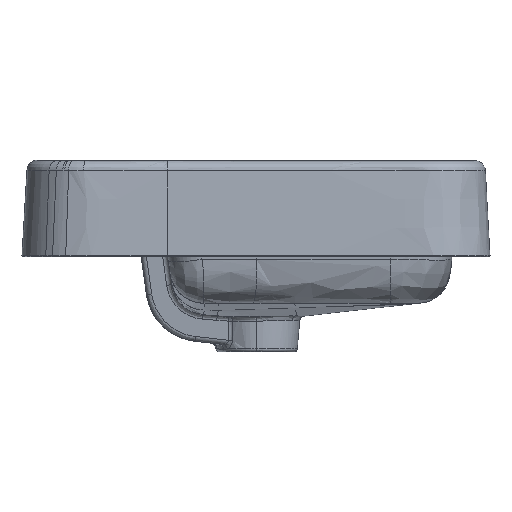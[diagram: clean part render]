
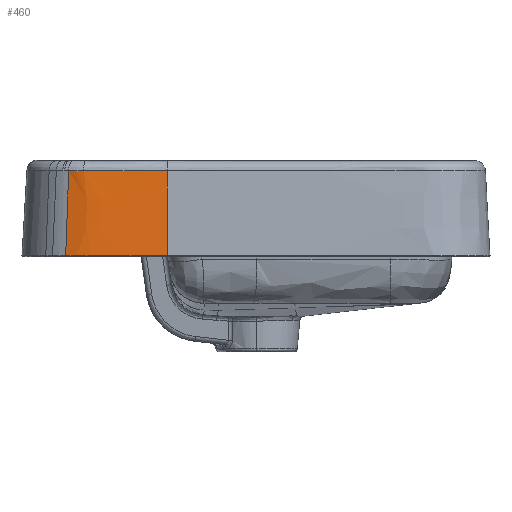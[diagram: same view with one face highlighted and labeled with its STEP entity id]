
A CAD part, left-side view. The second image highlights one B-rep face of the part: STEP entity #460.
In plain terms, the highlighted free-form (B-spline) face has degree [3, 3] with [4, 12] control points.
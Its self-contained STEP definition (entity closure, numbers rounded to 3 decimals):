
#460=ADVANCED_FACE('',(#815),#666,.F.);
#666=B_SPLINE_SURFACE_WITH_KNOTS('',3,3,((#15037,#15038,#15039,#15040,#15041,
#15042,#15043,#15044,#15045,#15046,#15047,#15048),(#15049,#15050,#15051,
#15052,#15053,#15054,#15055,#15056,#15057,#15058,#15059,#15060),(#15061,
#15062,#15063,#15064,#15065,#15066,#15067,#15068,#15069,#15070,#15071,#15072),
(#15073,#15074,#15075,#15076,#15077,#15078,#15079,#15080,#15081,#15082,
#15083,#15084)),.UNSPECIFIED.,.F.,.F.,.F.,(4,4),(4,1,1,1,1,1,1,1,1,4),(0.,
1.),(0.,0.25,0.5,0.625,0.688,0.75,0.813,0.875,
0.938,1.),.UNSPECIFIED.);
#815=FACE_OUTER_BOUND('',#1057,.T.);
#1057=EDGE_LOOP('',(#1604,#1605,#1606,#1607,#1608));
#1604=ORIENTED_EDGE('',*,*,#3112,.T.);
#1605=ORIENTED_EDGE('',*,*,#3113,.T.);
#1606=ORIENTED_EDGE('',*,*,#3104,.F.);
#1607=ORIENTED_EDGE('',*,*,#3114,.T.);
#1608=ORIENTED_EDGE('',*,*,#3115,.T.);
#2645=VERTEX_POINT('',#14583);
#2647=VERTEX_POINT('',#14668);
#2653=VERTEX_POINT('',#14996);
#2654=VERTEX_POINT('',#14997);
#2655=VERTEX_POINT('',#15032);
#3104=EDGE_CURVE('',#2647,#2645,#3678,.T.);
#3112=EDGE_CURVE('',#2653,#2654,#3686,.T.);
#3113=EDGE_CURVE('',#2654,#2645,#3687,.T.);
#3114=EDGE_CURVE('',#2647,#2655,#3688,.T.);
#3115=EDGE_CURVE('',#2655,#2653,#3689,.T.);
#3678=B_SPLINE_CURVE_WITH_KNOTS('',3,(#14669,#14670,#14671,#14672),
 .UNSPECIFIED.,.F.,.F.,(4,4),(0.,1.),.UNSPECIFIED.);
#3686=B_SPLINE_CURVE_WITH_KNOTS('',3,(#14992,#14993,#14994,#14995),
 .UNSPECIFIED.,.F.,.F.,(4,4),(0.,1.),.UNSPECIFIED.);
#3687=B_SPLINE_CURVE_WITH_KNOTS('',3,(#14998,#14999,#15000,#15001,#15002,
#15003,#15004,#15005,#15006,#15007,#15008,#15009,#15010,#15011,#15012,#15013,
#15014,#15015,#15016,#15017,#15018,#15019,#15020,#15021),.UNSPECIFIED.,
 .F.,.F.,(4,2,2,2,2,2,1,1,2,2,2,2,4),(0.,0.063,0.125,
0.188,0.219,0.234,0.242,
0.246,0.248,0.25,0.375,
0.5,1.),.UNSPECIFIED.);
#3688=B_SPLINE_CURVE_WITH_KNOTS('',3,(#15022,#15023,#15024,#15025,#15026,
#15027,#15028,#15029,#15030,#15031),.UNSPECIFIED.,.F.,.F.,(4,2,2,2,4),(0.,
0.5,0.75,0.875,1.),.UNSPECIFIED.);
#3689=B_SPLINE_CURVE_WITH_KNOTS('',3,(#15033,#15034,#15035,#15036),
 .UNSPECIFIED.,.F.,.F.,(4,4),(0.,1.),.UNSPECIFIED.);
#14583=CARTESIAN_POINT('',(-279.581,-130.711,-76.752));
#14668=CARTESIAN_POINT('',(-275.95,-130.71,3.096));
#14669=CARTESIAN_POINT('',(-275.95,-130.71,3.096));
#14670=CARTESIAN_POINT('',(-277.16,-130.711,-23.52));
#14671=CARTESIAN_POINT('',(-278.371,-130.711,-50.136));
#14672=CARTESIAN_POINT('',(-279.581,-130.711,-76.752));
#14992=CARTESIAN_POINT('',(-271.986,-37.739,3.189));
#14993=CARTESIAN_POINT('',(-273.017,-36.784,-23.457));
#14994=CARTESIAN_POINT('',(-274.048,-35.829,-50.103));
#14995=CARTESIAN_POINT('',(-275.079,-34.874,-76.748));
#14996=CARTESIAN_POINT('',(-271.986,-37.739,3.189));
#14997=CARTESIAN_POINT('',(-275.079,-34.874,-76.748));
#14998=CARTESIAN_POINT('',(-275.079,-34.874,-76.748));
#14999=CARTESIAN_POINT('',(-275.824,-36.839,-76.749));
#15000=CARTESIAN_POINT('',(-276.511,-38.953,-76.752));
#15001=CARTESIAN_POINT('',(-277.644,-43.105,-76.754));
#15002=CARTESIAN_POINT('',(-278.091,-45.145,-76.754));
#15003=CARTESIAN_POINT('',(-278.767,-49.132,-76.754));
#15004=CARTESIAN_POINT('',(-278.995,-51.079,-76.754));
#15005=CARTESIAN_POINT('',(-279.241,-53.895,-76.753));
#15006=CARTESIAN_POINT('',(-279.306,-54.816,-76.753));
#15007=CARTESIAN_POINT('',(-279.387,-56.169,-76.753));
#15008=CARTESIAN_POINT('',(-279.411,-56.615,-76.753));
#15009=CARTESIAN_POINT('',(-279.443,-57.277,-76.753));
#15010=CARTESIAN_POINT('',(-279.458,-57.606,-76.753));
#15011=CARTESIAN_POINT('',(-279.474,-57.987,-76.753));
#15012=CARTESIAN_POINT('',(-279.481,-58.149,-76.753));
#15013=CARTESIAN_POINT('',(-279.485,-58.257,-76.753));
#15014=CARTESIAN_POINT('',(-279.488,-58.35,-76.753));
#15015=CARTESIAN_POINT('',(-279.525,-59.3,-76.753));
#15016=CARTESIAN_POINT('',(-279.619,-61.936,-76.757));
#15017=CARTESIAN_POINT('',(-279.649,-70.04,-76.754));
#15018=CARTESIAN_POINT('',(-279.601,-75.42,-76.752));
#15019=CARTESIAN_POINT('',(-279.554,-110.665,-76.752));
#15020=CARTESIAN_POINT('',(-279.578,-126.755,-76.752));
#15021=CARTESIAN_POINT('',(-279.581,-130.711,-76.752));
#15022=CARTESIAN_POINT('',(-275.95,-130.71,3.096));
#15023=CARTESIAN_POINT('',(-275.95,-117.591,3.09));
#15024=CARTESIAN_POINT('',(-275.96,-104.471,3.083));
#15025=CARTESIAN_POINT('',(-275.993,-84.792,3.073));
#15026=CARTESIAN_POINT('',(-276.,-78.234,3.07));
#15027=CARTESIAN_POINT('',(-276.056,-68.391,3.064));
#15028=CARTESIAN_POINT('',(-276.074,-65.106,3.06));
#15029=CARTESIAN_POINT('',(-275.943,-58.501,3.066));
#15030=CARTESIAN_POINT('',(-275.804,-55.176,3.079));
#15031=CARTESIAN_POINT('',(-275.428,-51.88,3.105));
#15032=CARTESIAN_POINT('',(-275.428,-51.88,3.105));
#15033=CARTESIAN_POINT('',(-275.428,-51.88,3.105));
#15034=CARTESIAN_POINT('',(-274.875,-47.03,3.11));
#15035=CARTESIAN_POINT('',(-273.688,-42.23,3.139));
#15036=CARTESIAN_POINT('',(-271.986,-37.739,3.189));
#15037=CARTESIAN_POINT('',(-275.536,-130.71,12.203));
#15038=CARTESIAN_POINT('',(-275.536,-122.944,12.203));
#15039=CARTESIAN_POINT('',(-275.544,-107.411,12.202));
#15040=CARTESIAN_POINT('',(-275.574,-87.995,12.199));
#15041=CARTESIAN_POINT('',(-275.605,-74.405,12.199));
#15042=CARTESIAN_POINT('',(-275.66,-66.638,12.197));
#15043=CARTESIAN_POINT('',(-275.608,-60.816,12.197));
#15044=CARTESIAN_POINT('',(-275.368,-54.989,12.219));
#15045=CARTESIAN_POINT('',(-274.746,-49.204,12.268));
#15046=CARTESIAN_POINT('',(-273.508,-43.526,12.338));
#15047=CARTESIAN_POINT('',(-272.309,-39.863,12.399));
#15048=CARTESIAN_POINT('',(-271.629,-38.07,12.433));
#15049=CARTESIAN_POINT('',(-276.909,-130.711,-18.001));
#15050=CARTESIAN_POINT('',(-276.908,-122.945,-18.004));
#15051=CARTESIAN_POINT('',(-276.911,-107.416,-18.01));
#15052=CARTESIAN_POINT('',(-276.936,-88.001,-18.019));
#15053=CARTESIAN_POINT('',(-276.964,-74.416,-18.025));
#15054=CARTESIAN_POINT('',(-277.017,-66.64,-18.029));
#15055=CARTESIAN_POINT('',(-276.962,-60.719,-18.031));
#15056=CARTESIAN_POINT('',(-276.712,-54.686,-18.011));
#15057=CARTESIAN_POINT('',(-276.059,-48.637,-17.962));
#15058=CARTESIAN_POINT('',(-274.76,-42.682,-17.891));
#15059=CARTESIAN_POINT('',(-273.495,-38.824,-17.827));
#15060=CARTESIAN_POINT('',(-272.798,-36.987,-17.793));
#15061=CARTESIAN_POINT('',(-278.283,-130.711,-48.205));
#15062=CARTESIAN_POINT('',(-278.279,-122.946,-48.21));
#15063=CARTESIAN_POINT('',(-278.278,-107.42,-48.222));
#15064=CARTESIAN_POINT('',(-278.298,-88.007,-48.238));
#15065=CARTESIAN_POINT('',(-278.322,-74.427,-48.249));
#15066=CARTESIAN_POINT('',(-278.373,-66.642,-48.256));
#15067=CARTESIAN_POINT('',(-278.316,-60.622,-48.26));
#15068=CARTESIAN_POINT('',(-278.056,-54.384,-48.241));
#15069=CARTESIAN_POINT('',(-277.373,-48.071,-48.192));
#15070=CARTESIAN_POINT('',(-276.012,-41.838,-48.119));
#15071=CARTESIAN_POINT('',(-274.682,-37.785,-48.054));
#15072=CARTESIAN_POINT('',(-273.967,-35.904,-48.019));
#15073=CARTESIAN_POINT('',(-279.656,-130.711,-78.408));
#15074=CARTESIAN_POINT('',(-279.65,-122.947,-78.417));
#15075=CARTESIAN_POINT('',(-279.646,-107.424,-78.434));
#15076=CARTESIAN_POINT('',(-279.66,-88.013,-78.457));
#15077=CARTESIAN_POINT('',(-279.68,-74.438,-78.472));
#15078=CARTESIAN_POINT('',(-279.729,-66.644,-78.482));
#15079=CARTESIAN_POINT('',(-279.67,-60.525,-78.489));
#15080=CARTESIAN_POINT('',(-279.4,-54.082,-78.47));
#15081=CARTESIAN_POINT('',(-278.687,-47.505,-78.422));
#15082=CARTESIAN_POINT('',(-277.264,-40.994,-78.347));
#15083=CARTESIAN_POINT('',(-275.869,-36.746,-78.28));
#15084=CARTESIAN_POINT('',(-275.137,-34.821,-78.246));
